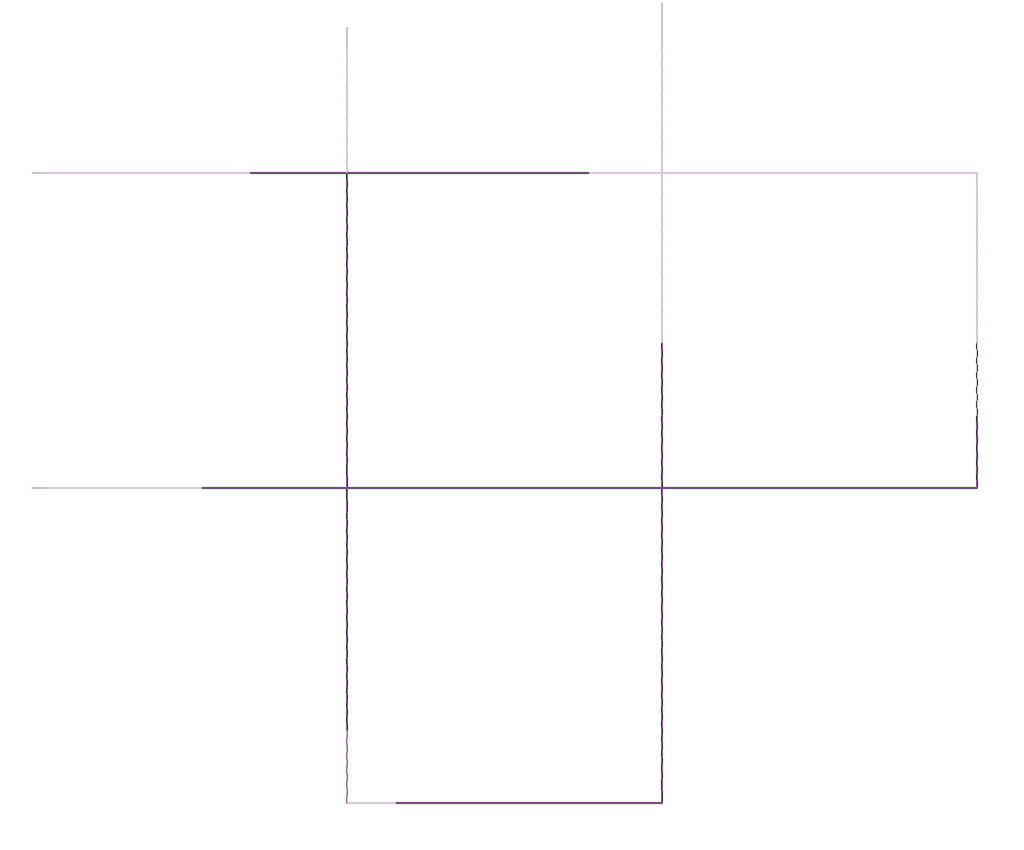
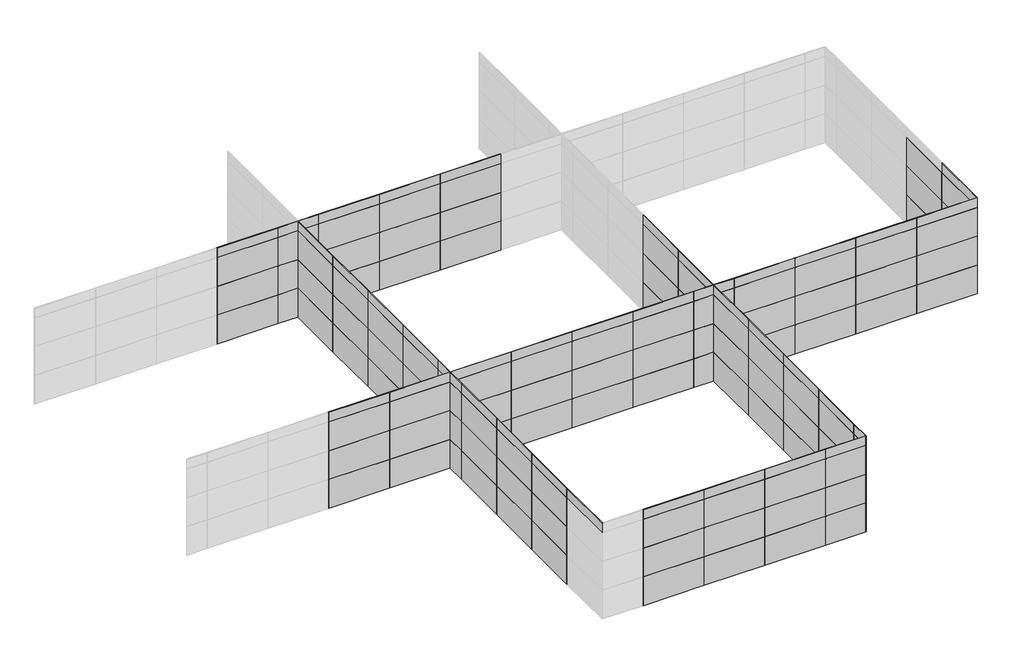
# One storey, part 2 of 4: 160 plates.
"""IFC4 building model written with IfcOpenShell, lengths in millimetres."""

from ifc_helpers import new_model, si_unit, origin, place, context, project, spatial, transform, mapped, element, save
from components import plate_b491c4e8, plate_da1865bf, plate_ce02e459, plate_7b5d22a9, plate_a38b8537, plate_752961ee

model = new_model("IFC4")

# Units and contexts
model_context = context("Model", 3, world=origin())
ifc_project = project(units=[si_unit("LENGTHUNIT", "METRE", prefix="MILLI")], contexts=[model_context])

# Site, building, storey
site = spatial("IfcSite", under=ifc_project)
building = spatial("IfcBuilding", under=site)
storey = spatial("IfcBuildingStorey", under=building, Name="标高 4", Elevation=15000.0)

# Plates
placement = place(None, origin())
plate_shape = plate_b491c4e8(model_context)
element("IfcPlate", 1, ObjectType="系统嵌板 : 玻璃", at=placement, inside=storey, context=model_context, shape_type="MappedRepresentation", body=[
    mapped(plate_shape, transform((30694.7947586, -9748.6313563, 15000.0), x_axis=(0.0, -1.0, 0.0), y_axis=(1.0, 0.0, 0.0), z_axis=(0.0, 0.0, 1.0))),
])
element("IfcPlate", 2, ObjectType="系统嵌板 : 玻璃", at=placement, inside=storey, context=model_context, shape_type="MappedRepresentation", body=[
    mapped(plate_shape, transform((30694.7947586, -12748.6313563, 15000.0), x_axis=(0.0, -1.0, 0.0), y_axis=(1.0, 0.0, 0.0), z_axis=(0.0, 0.0, 1.0))),
])
element("IfcPlate", 3, ObjectType="系统嵌板 : 玻璃", at=placement, inside=storey, context=model_context, shape_type="MappedRepresentation", body=[
    mapped(plate_shape, transform((30694.7947586, -9748.6313563, 16500.0), x_axis=(0.0, -1.0, 0.0), y_axis=(1.0, 0.0, 0.0), z_axis=(0.0, 0.0, 1.0))),
])
element("IfcPlate", 4, ObjectType="系统嵌板 : 玻璃", at=placement, inside=storey, context=model_context, shape_type="MappedRepresentation", body=[
    mapped(plate_shape, transform((30694.7947586, -12748.6313563, 16500.0), x_axis=(0.0, -1.0, 0.0), y_axis=(1.0, 0.0, 0.0), z_axis=(0.0, 0.0, 1.0))),
])
element("IfcPlate", 5, ObjectType="系统嵌板 : 玻璃", at=placement, inside=storey, context=model_context, shape_type="MappedRepresentation", body=[
    mapped(plate_shape, transform((30694.7947586, -9748.6313563, 18000.0), x_axis=(0.0, -1.0, 0.0), y_axis=(1.0, 0.0, 0.0), z_axis=(0.0, 0.0, 1.0))),
])
element("IfcPlate", 6, ObjectType="系统嵌板 : 玻璃", at=placement, inside=storey, context=model_context, shape_type="MappedRepresentation", body=[
    mapped(plate_shape, transform((30694.7947586, -12748.6313563, 18000.0), x_axis=(0.0, -1.0, 0.0), y_axis=(1.0, 0.0, 0.0), z_axis=(0.0, 0.0, 1.0))),
])
element("IfcPlate", 7, ObjectType="系统嵌板 : 玻璃", at=placement, inside=storey, context=model_context, shape_type="MappedRepresentation", body=[
    mapped(plate_shape, transform((14194.7947586, -27248.6313563, 15000.0), x_axis=(-1.0, 0.0, 0.0), y_axis=(0.0, -1.0, 0.0), z_axis=(0.0, 0.0, 1.0))),
])
element("IfcPlate", 8, ObjectType="系统嵌板 : 玻璃", at=placement, inside=storey, context=model_context, shape_type="MappedRepresentation", body=[
    mapped(plate_shape, transform((11194.7947586, -27248.6313563, 15000.0), x_axis=(-1.0, 0.0, 0.0), y_axis=(0.0, -1.0, 0.0), z_axis=(0.0, 0.0, 1.0))),
])
element("IfcPlate", 9, ObjectType="系统嵌板 : 玻璃", at=placement, inside=storey, context=model_context, shape_type="MappedRepresentation", body=[
    mapped(plate_shape, transform((8194.7947586, -27248.6313563, 15000.0), x_axis=(-1.0, 0.0, 0.0), y_axis=(0.0, -1.0, 0.0), z_axis=(0.0, 0.0, 1.0))),
])
element("IfcPlate", 10, ObjectType="系统嵌板 : 玻璃", at=placement, inside=storey, context=model_context, shape_type="MappedRepresentation", body=[
    mapped(plate_shape, transform((14194.7947586, -27248.6313563, 16500.0), x_axis=(-1.0, 0.0, 0.0), y_axis=(0.0, -1.0, 0.0), z_axis=(0.0, 0.0, 1.0))),
])
element("IfcPlate", 11, ObjectType="系统嵌板 : 玻璃", at=placement, inside=storey, context=model_context, shape_type="MappedRepresentation", body=[
    mapped(plate_shape, transform((11194.7947586, -27248.6313563, 16500.0), x_axis=(-1.0, 0.0, 0.0), y_axis=(0.0, -1.0, 0.0), z_axis=(0.0, 0.0, 1.0))),
])
element("IfcPlate", 12, ObjectType="系统嵌板 : 玻璃", at=placement, inside=storey, context=model_context, shape_type="MappedRepresentation", body=[
    mapped(plate_shape, transform((8194.7947586, -27248.6313563, 16500.0), x_axis=(-1.0, 0.0, 0.0), y_axis=(0.0, -1.0, 0.0), z_axis=(0.0, 0.0, 1.0))),
])
element("IfcPlate", 13, ObjectType="系统嵌板 : 玻璃", at=placement, inside=storey, context=model_context, shape_type="MappedRepresentation", body=[
    mapped(plate_shape, transform((14194.7947586, -27248.6313563, 18000.0), x_axis=(-1.0, 0.0, 0.0), y_axis=(0.0, -1.0, 0.0), z_axis=(0.0, 0.0, 1.0))),
])
element("IfcPlate", 14, ObjectType="系统嵌板 : 玻璃", at=placement, inside=storey, context=model_context, shape_type="MappedRepresentation", body=[
    mapped(plate_shape, transform((11194.7947586, -27248.6313563, 18000.0), x_axis=(-1.0, 0.0, 0.0), y_axis=(0.0, -1.0, 0.0), z_axis=(0.0, 0.0, 1.0))),
])
element("IfcPlate", 15, ObjectType="系统嵌板 : 玻璃", at=placement, inside=storey, context=model_context, shape_type="MappedRepresentation", body=[
    mapped(plate_shape, transform((8194.7947586, -27248.6313563, 18000.0), x_axis=(-1.0, 0.0, 0.0), y_axis=(0.0, -1.0, 0.0), z_axis=(0.0, 0.0, 1.0))),
])
element("IfcPlate", 16, ObjectType="系统嵌板 : 玻璃", at=placement, inside=storey, context=model_context, shape_type="MappedRepresentation", body=[
    mapped(plate_shape, transform((4694.7947586, -22748.6313563, 15000.0), x_axis=(0.0, 1.0, 0.0), y_axis=(-1.0, 0.0, 0.0), z_axis=(0.0, 0.0, 1.0))),
])
element("IfcPlate", 17, ObjectType="系统嵌板 : 玻璃", at=placement, inside=storey, context=model_context, shape_type="MappedRepresentation", body=[
    mapped(plate_shape, transform((4694.7947586, -19748.6313563, 15000.0), x_axis=(0.0, 1.0, 0.0), y_axis=(-1.0, 0.0, 0.0), z_axis=(0.0, 0.0, 1.0))),
])
element("IfcPlate", 18, ObjectType="系统嵌板 : 玻璃", at=placement, inside=storey, context=model_context, shape_type="MappedRepresentation", body=[
    mapped(plate_shape, transform((4694.7947586, -16748.6313563, 15000.0), x_axis=(0.0, 1.0, 0.0), y_axis=(-1.0, 0.0, 0.0), z_axis=(0.0, 0.0, 1.0))),
])
element("IfcPlate", 19, ObjectType="系统嵌板 : 玻璃", at=placement, inside=storey, context=model_context, shape_type="MappedRepresentation", body=[
    mapped(plate_shape, transform((4694.7947586, -22748.6313563, 16500.0), x_axis=(0.0, 1.0, 0.0), y_axis=(-1.0, 0.0, 0.0), z_axis=(0.0, 0.0, 1.0))),
])
element("IfcPlate", 20, ObjectType="系统嵌板 : 玻璃", at=placement, inside=storey, context=model_context, shape_type="MappedRepresentation", body=[
    mapped(plate_shape, transform((4694.7947586, -19748.6313563, 16500.0), x_axis=(0.0, 1.0, 0.0), y_axis=(-1.0, 0.0, 0.0), z_axis=(0.0, 0.0, 1.0))),
])
element("IfcPlate", 21, ObjectType="系统嵌板 : 玻璃", at=placement, inside=storey, context=model_context, shape_type="MappedRepresentation", body=[
    mapped(plate_shape, transform((4694.7947586, -16748.6313563, 16500.0), x_axis=(0.0, 1.0, 0.0), y_axis=(-1.0, 0.0, 0.0), z_axis=(0.0, 0.0, 1.0))),
])
element("IfcPlate", 22, ObjectType="系统嵌板 : 玻璃", at=placement, inside=storey, context=model_context, shape_type="MappedRepresentation", body=[
    mapped(plate_shape, transform((4694.7947586, -22748.6313563, 18000.0), x_axis=(0.0, 1.0, 0.0), y_axis=(-1.0, 0.0, 0.0), z_axis=(0.0, 0.0, 1.0))),
])
element("IfcPlate", 23, ObjectType="系统嵌板 : 玻璃", at=placement, inside=storey, context=model_context, shape_type="MappedRepresentation", body=[
    mapped(plate_shape, transform((4694.7947586, -19748.6313563, 18000.0), x_axis=(0.0, 1.0, 0.0), y_axis=(-1.0, 0.0, 0.0), z_axis=(0.0, 0.0, 1.0))),
])
element("IfcPlate", 24, ObjectType="系统嵌板 : 玻璃", at=placement, inside=storey, context=model_context, shape_type="MappedRepresentation", body=[
    mapped(plate_shape, transform((4694.7947586, -16748.6313563, 18000.0), x_axis=(0.0, 1.0, 0.0), y_axis=(-1.0, 0.0, 0.0), z_axis=(0.0, 0.0, 1.0))),
])
element("IfcPlate", 25, ObjectType="系统嵌板 : 玻璃", at=placement, inside=storey, context=model_context, shape_type="MappedRepresentation", body=[
    mapped(plate_shape, transform((3194.7947586, -14248.6313563, 15000.0), x_axis=(-1.0, 0.0, 0.0), y_axis=(0.0, -1.0, 0.0), z_axis=(0.0, 0.0, 1.0))),
])
element("IfcPlate", 26, ObjectType="系统嵌板 : 玻璃", at=placement, inside=storey, context=model_context, shape_type="MappedRepresentation", body=[
    mapped(plate_shape, transform((194.7947586, -14248.6313563, 15000.0), x_axis=(-1.0, 0.0, 0.0), y_axis=(0.0, -1.0, 0.0), z_axis=(0.0, 0.0, 1.0))),
])
element("IfcPlate", 27, ObjectType="系统嵌板 : 玻璃", at=placement, inside=storey, context=model_context, shape_type="MappedRepresentation", body=[
    mapped(plate_shape, transform((3194.7947586, -14248.6313563, 16500.0), x_axis=(-1.0, 0.0, 0.0), y_axis=(0.0, -1.0, 0.0), z_axis=(0.0, 0.0, 1.0))),
])
element("IfcPlate", 28, ObjectType="系统嵌板 : 玻璃", at=placement, inside=storey, context=model_context, shape_type="MappedRepresentation", body=[
    mapped(plate_shape, transform((194.7947586, -14248.6313563, 16500.0), x_axis=(-1.0, 0.0, 0.0), y_axis=(0.0, -1.0, 0.0), z_axis=(0.0, 0.0, 1.0))),
])
element("IfcPlate", 29, ObjectType="系统嵌板 : 玻璃", at=placement, inside=storey, context=model_context, shape_type="MappedRepresentation", body=[
    mapped(plate_shape, transform((3194.7947586, -14248.6313563, 18000.0), x_axis=(-1.0, 0.0, 0.0), y_axis=(0.0, -1.0, 0.0), z_axis=(0.0, 0.0, 1.0))),
])
element("IfcPlate", 30, ObjectType="系统嵌板 : 玻璃", at=placement, inside=storey, context=model_context, shape_type="MappedRepresentation", body=[
    mapped(plate_shape, transform((194.7947586, -14248.6313563, 18000.0), x_axis=(-1.0, 0.0, 0.0), y_axis=(0.0, -1.0, 0.0), z_axis=(0.0, 0.0, 1.0))),
])
element("IfcPlate", 31, ObjectType="系统嵌板 : 玻璃", at=placement, inside=storey, context=model_context, shape_type="MappedRepresentation", body=[
    mapped(plate_shape, transform((2194.7947586, -1248.6313563, 15000.0), x_axis=(1.0, 0.0, 0.0), y_axis=(0.0, 1.0, 0.0), z_axis=(0.0, 0.0, 1.0))),
])
element("IfcPlate", 32, ObjectType="系统嵌板 : 玻璃", at=placement, inside=storey, context=model_context, shape_type="MappedRepresentation", body=[
    mapped(plate_shape, transform((2194.7947586, -1248.6313563, 16500.0), x_axis=(1.0, 0.0, 0.0), y_axis=(0.0, 1.0, 0.0), z_axis=(0.0, 0.0, 1.0))),
])
element("IfcPlate", 33, ObjectType="系统嵌板 : 玻璃", at=placement, inside=storey, context=model_context, shape_type="MappedRepresentation", body=[
    mapped(plate_shape, transform((2194.7947586, -1248.6313563, 18000.0), x_axis=(1.0, 0.0, 0.0), y_axis=(0.0, 1.0, 0.0), z_axis=(0.0, 0.0, 1.0))),
])
element("IfcPlate", 34, ObjectType="系统嵌板 : 玻璃", at=placement, inside=storey, context=model_context, shape_type="MappedRepresentation", body=[
    mapped(plate_shape, transform((17694.7947586, -12748.6313563, 15000.0), x_axis=(0.0, 1.0, 0.0), y_axis=(-1.0, 0.0, 0.0), z_axis=(0.0, 0.0, 1.0))),
])
element("IfcPlate", 35, ObjectType="系统嵌板 : 玻璃", at=placement, inside=storey, context=model_context, shape_type="MappedRepresentation", body=[
    mapped(plate_shape, transform((17694.7947586, -9748.6313563, 15000.0), x_axis=(0.0, 1.0, 0.0), y_axis=(-1.0, 0.0, 0.0), z_axis=(0.0, 0.0, 1.0))),
])
element("IfcPlate", 36, ObjectType="系统嵌板 : 玻璃", at=placement, inside=storey, context=model_context, shape_type="MappedRepresentation", body=[
    mapped(plate_shape, transform((17694.7947586, -12748.6313563, 16500.0), x_axis=(0.0, 1.0, 0.0), y_axis=(-1.0, 0.0, 0.0), z_axis=(0.0, 0.0, 1.0))),
])
element("IfcPlate", 37, ObjectType="系统嵌板 : 玻璃", at=placement, inside=storey, context=model_context, shape_type="MappedRepresentation", body=[
    mapped(plate_shape, transform((17694.7947586, -9748.6313563, 16500.0), x_axis=(0.0, 1.0, 0.0), y_axis=(-1.0, 0.0, 0.0), z_axis=(0.0, 0.0, 1.0))),
])
element("IfcPlate", 38, ObjectType="系统嵌板 : 玻璃", at=placement, inside=storey, context=model_context, shape_type="MappedRepresentation", body=[
    mapped(plate_shape, transform((17694.7947586, -12748.6313563, 18000.0), x_axis=(0.0, 1.0, 0.0), y_axis=(-1.0, 0.0, 0.0), z_axis=(0.0, 0.0, 1.0))),
])
element("IfcPlate", 39, ObjectType="系统嵌板 : 玻璃", at=placement, inside=storey, context=model_context, shape_type="MappedRepresentation", body=[
    mapped(plate_shape, transform((17694.7947586, -9748.6313563, 18000.0), x_axis=(0.0, 1.0, 0.0), y_axis=(-1.0, 0.0, 0.0), z_axis=(0.0, 0.0, 1.0))),
])
element("IfcPlate", 40, ObjectType="系统嵌板 : 玻璃", at=placement, inside=storey, context=model_context, shape_type="MappedRepresentation", body=[
    mapped(plate_shape, transform((6194.7947586, -14248.6313563, 15000.0), x_axis=(1.0, 0.0, 0.0), y_axis=(0.0, 1.0, 0.0), z_axis=(0.0, 0.0, 1.0))),
])
element("IfcPlate", 41, ObjectType="系统嵌板 : 玻璃", at=placement, inside=storey, context=model_context, shape_type="MappedRepresentation", body=[
    mapped(plate_shape, transform((9194.7947586, -14248.6313563, 15000.0), x_axis=(1.0, 0.0, 0.0), y_axis=(0.0, 1.0, 0.0), z_axis=(0.0, 0.0, 1.0))),
])
element("IfcPlate", 42, ObjectType="系统嵌板 : 玻璃", at=placement, inside=storey, context=model_context, shape_type="MappedRepresentation", body=[
    mapped(plate_shape, transform((12194.7947586, -14248.6313563, 15000.0), x_axis=(1.0, 0.0, 0.0), y_axis=(0.0, 1.0, 0.0), z_axis=(0.0, 0.0, 1.0))),
])
element("IfcPlate", 43, ObjectType="系统嵌板 : 玻璃", at=placement, inside=storey, context=model_context, shape_type="MappedRepresentation", body=[
    mapped(plate_shape, transform((15194.7947586, -14248.6313563, 15000.0), x_axis=(1.0, 0.0, 0.0), y_axis=(0.0, 1.0, 0.0), z_axis=(0.0, 0.0, 1.0))),
])
element("IfcPlate", 44, ObjectType="系统嵌板 : 玻璃", at=placement, inside=storey, context=model_context, shape_type="MappedRepresentation", body=[
    mapped(plate_shape, transform((6194.7947586, -14248.6313563, 16500.0), x_axis=(1.0, 0.0, 0.0), y_axis=(0.0, 1.0, 0.0), z_axis=(0.0, 0.0, 1.0))),
])
element("IfcPlate", 45, ObjectType="系统嵌板 : 玻璃", at=placement, inside=storey, context=model_context, shape_type="MappedRepresentation", body=[
    mapped(plate_shape, transform((9194.7947586, -14248.6313563, 16500.0), x_axis=(1.0, 0.0, 0.0), y_axis=(0.0, 1.0, 0.0), z_axis=(0.0, 0.0, 1.0))),
])
element("IfcPlate", 46, ObjectType="系统嵌板 : 玻璃", at=placement, inside=storey, context=model_context, shape_type="MappedRepresentation", body=[
    mapped(plate_shape, transform((12194.7947586, -14248.6313563, 16500.0), x_axis=(1.0, 0.0, 0.0), y_axis=(0.0, 1.0, 0.0), z_axis=(0.0, 0.0, 1.0))),
])
element("IfcPlate", 47, ObjectType="系统嵌板 : 玻璃", at=placement, inside=storey, context=model_context, shape_type="MappedRepresentation", body=[
    mapped(plate_shape, transform((15194.7947586, -14248.6313563, 16500.0), x_axis=(1.0, 0.0, 0.0), y_axis=(0.0, 1.0, 0.0), z_axis=(0.0, 0.0, 1.0))),
])
element("IfcPlate", 48, ObjectType="系统嵌板 : 玻璃", at=placement, inside=storey, context=model_context, shape_type="MappedRepresentation", body=[
    mapped(plate_shape, transform((6194.7947586, -14248.6313563, 18000.0), x_axis=(1.0, 0.0, 0.0), y_axis=(0.0, 1.0, 0.0), z_axis=(0.0, 0.0, 1.0))),
])
element("IfcPlate", 49, ObjectType="系统嵌板 : 玻璃", at=placement, inside=storey, context=model_context, shape_type="MappedRepresentation", body=[
    mapped(plate_shape, transform((9194.7947586, -14248.6313563, 18000.0), x_axis=(1.0, 0.0, 0.0), y_axis=(0.0, 1.0, 0.0), z_axis=(0.0, 0.0, 1.0))),
])
element("IfcPlate", 50, ObjectType="系统嵌板 : 玻璃", at=placement, inside=storey, context=model_context, shape_type="MappedRepresentation", body=[
    mapped(plate_shape, transform((12194.7947586, -14248.6313563, 18000.0), x_axis=(1.0, 0.0, 0.0), y_axis=(0.0, 1.0, 0.0), z_axis=(0.0, 0.0, 1.0))),
])
element("IfcPlate", 51, ObjectType="系统嵌板 : 玻璃", at=placement, inside=storey, context=model_context, shape_type="MappedRepresentation", body=[
    mapped(plate_shape, transform((15194.7947586, -14248.6313563, 18000.0), x_axis=(1.0, 0.0, 0.0), y_axis=(0.0, 1.0, 0.0), z_axis=(0.0, 0.0, 1.0))),
])
element("IfcPlate", 52, ObjectType="系统嵌板 : 玻璃", at=placement, inside=storey, context=model_context, shape_type="MappedRepresentation", body=[
    mapped(plate_shape, transform((13194.7947586, -1248.6313563, 15000.0), x_axis=(-1.0, 0.0, 0.0), y_axis=(0.0, -1.0, 0.0), z_axis=(0.0, 0.0, 1.0))),
])
element("IfcPlate", 53, ObjectType="系统嵌板 : 玻璃", at=placement, inside=storey, context=model_context, shape_type="MappedRepresentation", body=[
    mapped(plate_shape, transform((10194.7947586, -1248.6313563, 15000.0), x_axis=(-1.0, 0.0, 0.0), y_axis=(0.0, -1.0, 0.0), z_axis=(0.0, 0.0, 1.0))),
])
element("IfcPlate", 54, ObjectType="系统嵌板 : 玻璃", at=placement, inside=storey, context=model_context, shape_type="MappedRepresentation", body=[
    mapped(plate_shape, transform((7194.7947586, -1248.6313563, 15000.0), x_axis=(-1.0, 0.0, 0.0), y_axis=(0.0, -1.0, 0.0), z_axis=(0.0, 0.0, 1.0))),
])
element("IfcPlate", 55, ObjectType="系统嵌板 : 玻璃", at=placement, inside=storey, context=model_context, shape_type="MappedRepresentation", body=[
    mapped(plate_shape, transform((13194.7947586, -1248.6313563, 16500.0), x_axis=(-1.0, 0.0, 0.0), y_axis=(0.0, -1.0, 0.0), z_axis=(0.0, 0.0, 1.0))),
])
element("IfcPlate", 56, ObjectType="系统嵌板 : 玻璃", at=placement, inside=storey, context=model_context, shape_type="MappedRepresentation", body=[
    mapped(plate_shape, transform((10194.7947586, -1248.6313563, 16500.0), x_axis=(-1.0, 0.0, 0.0), y_axis=(0.0, -1.0, 0.0), z_axis=(0.0, 0.0, 1.0))),
])
element("IfcPlate", 57, ObjectType="系统嵌板 : 玻璃", at=placement, inside=storey, context=model_context, shape_type="MappedRepresentation", body=[
    mapped(plate_shape, transform((7194.7947586, -1248.6313563, 16500.0), x_axis=(-1.0, 0.0, 0.0), y_axis=(0.0, -1.0, 0.0), z_axis=(0.0, 0.0, 1.0))),
])
element("IfcPlate", 58, ObjectType="系统嵌板 : 玻璃", at=placement, inside=storey, context=model_context, shape_type="MappedRepresentation", body=[
    mapped(plate_shape, transform((13194.7947586, -1248.6313563, 18000.0), x_axis=(-1.0, 0.0, 0.0), y_axis=(0.0, -1.0, 0.0), z_axis=(0.0, 0.0, 1.0))),
])
element("IfcPlate", 59, ObjectType="系统嵌板 : 玻璃", at=placement, inside=storey, context=model_context, shape_type="MappedRepresentation", body=[
    mapped(plate_shape, transform((10194.7947586, -1248.6313563, 18000.0), x_axis=(-1.0, 0.0, 0.0), y_axis=(0.0, -1.0, 0.0), z_axis=(0.0, 0.0, 1.0))),
])
element("IfcPlate", 60, ObjectType="系统嵌板 : 玻璃", at=placement, inside=storey, context=model_context, shape_type="MappedRepresentation", body=[
    mapped(plate_shape, transform((7194.7947586, -1248.6313563, 18000.0), x_axis=(-1.0, 0.0, 0.0), y_axis=(0.0, -1.0, 0.0), z_axis=(0.0, 0.0, 1.0))),
])
element("IfcPlate", 61, ObjectType="系统嵌板 : 玻璃", at=placement, inside=storey, context=model_context, shape_type="MappedRepresentation", body=[
    mapped(plate_shape, transform((4694.7947586, -2748.6313563, 15000.0), x_axis=(0.0, -1.0, 0.0), y_axis=(1.0, 0.0, 0.0), z_axis=(0.0, 0.0, 1.0))),
])
element("IfcPlate", 62, ObjectType="系统嵌板 : 玻璃", at=placement, inside=storey, context=model_context, shape_type="MappedRepresentation", body=[
    mapped(plate_shape, transform((4694.7947586, -5748.6313563, 15000.0), x_axis=(0.0, -1.0, 0.0), y_axis=(1.0, 0.0, 0.0), z_axis=(0.0, 0.0, 1.0))),
])
element("IfcPlate", 63, ObjectType="系统嵌板 : 玻璃", at=placement, inside=storey, context=model_context, shape_type="MappedRepresentation", body=[
    mapped(plate_shape, transform((4694.7947586, -8748.6313563, 15000.0), x_axis=(0.0, -1.0, 0.0), y_axis=(1.0, 0.0, 0.0), z_axis=(0.0, 0.0, 1.0))),
])
element("IfcPlate", 64, ObjectType="系统嵌板 : 玻璃", at=placement, inside=storey, context=model_context, shape_type="MappedRepresentation", body=[
    mapped(plate_shape, transform((4694.7947586, -11748.6313563, 15000.0), x_axis=(0.0, -1.0, 0.0), y_axis=(1.0, 0.0, 0.0), z_axis=(0.0, 0.0, 1.0))),
])
element("IfcPlate", 65, ObjectType="系统嵌板 : 玻璃", at=placement, inside=storey, context=model_context, shape_type="MappedRepresentation", body=[
    mapped(plate_shape, transform((4694.7947586, -2748.6313563, 16500.0), x_axis=(0.0, -1.0, 0.0), y_axis=(1.0, 0.0, 0.0), z_axis=(0.0, 0.0, 1.0))),
])
element("IfcPlate", 66, ObjectType="系统嵌板 : 玻璃", at=placement, inside=storey, context=model_context, shape_type="MappedRepresentation", body=[
    mapped(plate_shape, transform((4694.7947586, -5748.6313563, 16500.0), x_axis=(0.0, -1.0, 0.0), y_axis=(1.0, 0.0, 0.0), z_axis=(0.0, 0.0, 1.0))),
])
element("IfcPlate", 67, ObjectType="系统嵌板 : 玻璃", at=placement, inside=storey, context=model_context, shape_type="MappedRepresentation", body=[
    mapped(plate_shape, transform((4694.7947586, -8748.6313563, 16500.0), x_axis=(0.0, -1.0, 0.0), y_axis=(1.0, 0.0, 0.0), z_axis=(0.0, 0.0, 1.0))),
])
element("IfcPlate", 68, ObjectType="系统嵌板 : 玻璃", at=placement, inside=storey, context=model_context, shape_type="MappedRepresentation", body=[
    mapped(plate_shape, transform((4694.7947586, -11748.6313563, 16500.0), x_axis=(0.0, -1.0, 0.0), y_axis=(1.0, 0.0, 0.0), z_axis=(0.0, 0.0, 1.0))),
])
element("IfcPlate", 69, ObjectType="系统嵌板 : 玻璃", at=placement, inside=storey, context=model_context, shape_type="MappedRepresentation", body=[
    mapped(plate_shape, transform((4694.7947586, -2748.6313563, 18000.0), x_axis=(0.0, -1.0, 0.0), y_axis=(1.0, 0.0, 0.0), z_axis=(0.0, 0.0, 1.0))),
])
element("IfcPlate", 70, ObjectType="系统嵌板 : 玻璃", at=placement, inside=storey, context=model_context, shape_type="MappedRepresentation", body=[
    mapped(plate_shape, transform((4694.7947586, -5748.6313563, 18000.0), x_axis=(0.0, -1.0, 0.0), y_axis=(1.0, 0.0, 0.0), z_axis=(0.0, 0.0, 1.0))),
])
element("IfcPlate", 71, ObjectType="系统嵌板 : 玻璃", at=placement, inside=storey, context=model_context, shape_type="MappedRepresentation", body=[
    mapped(plate_shape, transform((4694.7947586, -8748.6313563, 18000.0), x_axis=(0.0, -1.0, 0.0), y_axis=(1.0, 0.0, 0.0), z_axis=(0.0, 0.0, 1.0))),
])
element("IfcPlate", 72, ObjectType="系统嵌板 : 玻璃", at=placement, inside=storey, context=model_context, shape_type="MappedRepresentation", body=[
    mapped(plate_shape, transform((4694.7947586, -11748.6313563, 18000.0), x_axis=(0.0, -1.0, 0.0), y_axis=(1.0, 0.0, 0.0), z_axis=(0.0, 0.0, 1.0))),
])
element("IfcPlate", 73, ObjectType="系统嵌板 : 玻璃", at=placement, inside=storey, context=model_context, shape_type="MappedRepresentation", body=[
    mapped(plate_shape, transform((29194.7947586, -14248.6313563, 15000.0), x_axis=(-1.0, 0.0, 0.0), y_axis=(0.0, -1.0, 0.0), z_axis=(0.0, 0.0, 1.0))),
])
element("IfcPlate", 74, ObjectType="系统嵌板 : 玻璃", at=placement, inside=storey, context=model_context, shape_type="MappedRepresentation", body=[
    mapped(plate_shape, transform((26194.7947586, -14248.6313563, 15000.0), x_axis=(-1.0, 0.0, 0.0), y_axis=(0.0, -1.0, 0.0), z_axis=(0.0, 0.0, 1.0))),
])
element("IfcPlate", 75, ObjectType="系统嵌板 : 玻璃", at=placement, inside=storey, context=model_context, shape_type="MappedRepresentation", body=[
    mapped(plate_shape, transform((23194.7947586, -14248.6313563, 15000.0), x_axis=(-1.0, 0.0, 0.0), y_axis=(0.0, -1.0, 0.0), z_axis=(0.0, 0.0, 1.0))),
])
element("IfcPlate", 76, ObjectType="系统嵌板 : 玻璃", at=placement, inside=storey, context=model_context, shape_type="MappedRepresentation", body=[
    mapped(plate_shape, transform((20194.7947586, -14248.6313563, 15000.0), x_axis=(-1.0, 0.0, 0.0), y_axis=(0.0, -1.0, 0.0), z_axis=(0.0, 0.0, 1.0))),
])
element("IfcPlate", 77, ObjectType="系统嵌板 : 玻璃", at=placement, inside=storey, context=model_context, shape_type="MappedRepresentation", body=[
    mapped(plate_shape, transform((29194.7947586, -14248.6313563, 16500.0), x_axis=(-1.0, 0.0, 0.0), y_axis=(0.0, -1.0, 0.0), z_axis=(0.0, 0.0, 1.0))),
])
element("IfcPlate", 78, ObjectType="系统嵌板 : 玻璃", at=placement, inside=storey, context=model_context, shape_type="MappedRepresentation", body=[
    mapped(plate_shape, transform((26194.7947586, -14248.6313563, 16500.0), x_axis=(-1.0, 0.0, 0.0), y_axis=(0.0, -1.0, 0.0), z_axis=(0.0, 0.0, 1.0))),
])
element("IfcPlate", 79, ObjectType="系统嵌板 : 玻璃", at=placement, inside=storey, context=model_context, shape_type="MappedRepresentation", body=[
    mapped(plate_shape, transform((23194.7947586, -14248.6313563, 16500.0), x_axis=(-1.0, 0.0, 0.0), y_axis=(0.0, -1.0, 0.0), z_axis=(0.0, 0.0, 1.0))),
])
element("IfcPlate", 80, ObjectType="系统嵌板 : 玻璃", at=placement, inside=storey, context=model_context, shape_type="MappedRepresentation", body=[
    mapped(plate_shape, transform((20194.7947586, -14248.6313563, 16500.0), x_axis=(-1.0, 0.0, 0.0), y_axis=(0.0, -1.0, 0.0), z_axis=(0.0, 0.0, 1.0))),
])
element("IfcPlate", 81, ObjectType="系统嵌板 : 玻璃", at=placement, inside=storey, context=model_context, shape_type="MappedRepresentation", body=[
    mapped(plate_shape, transform((29194.7947586, -14248.6313563, 18000.0), x_axis=(-1.0, 0.0, 0.0), y_axis=(0.0, -1.0, 0.0), z_axis=(0.0, 0.0, 1.0))),
])
element("IfcPlate", 82, ObjectType="系统嵌板 : 玻璃", at=placement, inside=storey, context=model_context, shape_type="MappedRepresentation", body=[
    mapped(plate_shape, transform((26194.7947586, -14248.6313563, 18000.0), x_axis=(-1.0, 0.0, 0.0), y_axis=(0.0, -1.0, 0.0), z_axis=(0.0, 0.0, 1.0))),
])
element("IfcPlate", 83, ObjectType="系统嵌板 : 玻璃", at=placement, inside=storey, context=model_context, shape_type="MappedRepresentation", body=[
    mapped(plate_shape, transform((23194.7947586, -14248.6313563, 18000.0), x_axis=(-1.0, 0.0, 0.0), y_axis=(0.0, -1.0, 0.0), z_axis=(0.0, 0.0, 1.0))),
])
element("IfcPlate", 84, ObjectType="系统嵌板 : 玻璃", at=placement, inside=storey, context=model_context, shape_type="MappedRepresentation", body=[
    mapped(plate_shape, transform((20194.7947586, -14248.6313563, 18000.0), x_axis=(-1.0, 0.0, 0.0), y_axis=(0.0, -1.0, 0.0), z_axis=(0.0, 0.0, 1.0))),
])
element("IfcPlate", 85, ObjectType="系统嵌板 : 玻璃", at=placement, inside=storey, context=model_context, shape_type="MappedRepresentation", body=[
    mapped(plate_shape, transform((17694.7947586, -15748.6313563, 15000.0), x_axis=(0.0, -1.0, 0.0), y_axis=(1.0, 0.0, 0.0), z_axis=(0.0, 0.0, 1.0))),
])
element("IfcPlate", 86, ObjectType="系统嵌板 : 玻璃", at=placement, inside=storey, context=model_context, shape_type="MappedRepresentation", body=[
    mapped(plate_shape, transform((17694.7947586, -18748.6313563, 15000.0), x_axis=(0.0, -1.0, 0.0), y_axis=(1.0, 0.0, 0.0), z_axis=(0.0, 0.0, 1.0))),
])
element("IfcPlate", 87, ObjectType="系统嵌板 : 玻璃", at=placement, inside=storey, context=model_context, shape_type="MappedRepresentation", body=[
    mapped(plate_shape, transform((17694.7947586, -21748.6313563, 15000.0), x_axis=(0.0, -1.0, 0.0), y_axis=(1.0, 0.0, 0.0), z_axis=(0.0, 0.0, 1.0))),
])
element("IfcPlate", 88, ObjectType="系统嵌板 : 玻璃", at=placement, inside=storey, context=model_context, shape_type="MappedRepresentation", body=[
    mapped(plate_shape, transform((17694.7947586, -24748.6313563, 15000.0), x_axis=(0.0, -1.0, 0.0), y_axis=(1.0, 0.0, 0.0), z_axis=(0.0, 0.0, 1.0))),
])
element("IfcPlate", 89, ObjectType="系统嵌板 : 玻璃", at=placement, inside=storey, context=model_context, shape_type="MappedRepresentation", body=[
    mapped(plate_shape, transform((17694.7947586, -15748.6313563, 16500.0), x_axis=(0.0, -1.0, 0.0), y_axis=(1.0, 0.0, 0.0), z_axis=(0.0, 0.0, 1.0))),
])
element("IfcPlate", 90, ObjectType="系统嵌板 : 玻璃", at=placement, inside=storey, context=model_context, shape_type="MappedRepresentation", body=[
    mapped(plate_shape, transform((17694.7947586, -18748.6313563, 16500.0), x_axis=(0.0, -1.0, 0.0), y_axis=(1.0, 0.0, 0.0), z_axis=(0.0, 0.0, 1.0))),
])
element("IfcPlate", 91, ObjectType="系统嵌板 : 玻璃", at=placement, inside=storey, context=model_context, shape_type="MappedRepresentation", body=[
    mapped(plate_shape, transform((17694.7947586, -21748.6313563, 16500.0), x_axis=(0.0, -1.0, 0.0), y_axis=(1.0, 0.0, 0.0), z_axis=(0.0, 0.0, 1.0))),
])
element("IfcPlate", 92, ObjectType="系统嵌板 : 玻璃", at=placement, inside=storey, context=model_context, shape_type="MappedRepresentation", body=[
    mapped(plate_shape, transform((17694.7947586, -24748.6313563, 16500.0), x_axis=(0.0, -1.0, 0.0), y_axis=(1.0, 0.0, 0.0), z_axis=(0.0, 0.0, 1.0))),
])
element("IfcPlate", 93, ObjectType="系统嵌板 : 玻璃", at=placement, inside=storey, context=model_context, shape_type="MappedRepresentation", body=[
    mapped(plate_shape, transform((17694.7947586, -15748.6313563, 18000.0), x_axis=(0.0, -1.0, 0.0), y_axis=(1.0, 0.0, 0.0), z_axis=(0.0, 0.0, 1.0))),
])
element("IfcPlate", 94, ObjectType="系统嵌板 : 玻璃", at=placement, inside=storey, context=model_context, shape_type="MappedRepresentation", body=[
    mapped(plate_shape, transform((17694.7947586, -18748.6313563, 18000.0), x_axis=(0.0, -1.0, 0.0), y_axis=(1.0, 0.0, 0.0), z_axis=(0.0, 0.0, 1.0))),
])
element("IfcPlate", 95, ObjectType="系统嵌板 : 玻璃", at=placement, inside=storey, context=model_context, shape_type="MappedRepresentation", body=[
    mapped(plate_shape, transform((17694.7947586, -21748.6313563, 18000.0), x_axis=(0.0, -1.0, 0.0), y_axis=(1.0, 0.0, 0.0), z_axis=(0.0, 0.0, 1.0))),
])
element("IfcPlate", 96, ObjectType="系统嵌板 : 玻璃", at=placement, inside=storey, context=model_context, shape_type="MappedRepresentation", body=[
    mapped(plate_shape, transform((17694.7947586, -24748.6313563, 18000.0), x_axis=(0.0, -1.0, 0.0), y_axis=(1.0, 0.0, 0.0), z_axis=(0.0, 0.0, 1.0))),
])
plate_2_shape = plate_da1865bf(model_context)
element("IfcPlate", 97, ObjectType="系统嵌板 : 玻璃", at=placement, inside=storey, context=model_context, shape_type="MappedRepresentation", body=[
    mapped(plate_2_shape, transform((4694.7947586, -14748.6313563, 15000.0), x_axis=(0.0, 1.0, 0.0), y_axis=(-1.0, 0.0, 0.0), z_axis=(0.0, 0.0, 1.0))),
])
element("IfcPlate", 98, ObjectType="系统嵌板 : 玻璃", at=placement, inside=storey, context=model_context, shape_type="MappedRepresentation", body=[
    mapped(plate_2_shape, transform((4694.7947586, -14748.6313563, 16500.0), x_axis=(0.0, 1.0, 0.0), y_axis=(-1.0, 0.0, 0.0), z_axis=(0.0, 0.0, 1.0))),
])
element("IfcPlate", 99, ObjectType="系统嵌板 : 玻璃", at=placement, inside=storey, context=model_context, shape_type="MappedRepresentation", body=[
    mapped(plate_2_shape, transform((4694.7947586, -14748.6313563, 18000.0), x_axis=(0.0, 1.0, 0.0), y_axis=(-1.0, 0.0, 0.0), z_axis=(0.0, 0.0, 1.0))),
])
element("IfcPlate", 100, ObjectType="系统嵌板 : 玻璃", at=placement, inside=storey, context=model_context, shape_type="MappedRepresentation", body=[
    mapped(plate_2_shape, transform((4194.7947586, -1248.6313563, 15000.0), x_axis=(1.0, 0.0, 0.0), y_axis=(0.0, 1.0, 0.0), z_axis=(0.0, 0.0, 1.0))),
])
element("IfcPlate", 101, ObjectType="系统嵌板 : 玻璃", at=placement, inside=storey, context=model_context, shape_type="MappedRepresentation", body=[
    mapped(plate_2_shape, transform((4194.7947586, -1248.6313563, 16500.0), x_axis=(1.0, 0.0, 0.0), y_axis=(0.0, 1.0, 0.0), z_axis=(0.0, 0.0, 1.0))),
])
element("IfcPlate", 102, ObjectType="系统嵌板 : 玻璃", at=placement, inside=storey, context=model_context, shape_type="MappedRepresentation", body=[
    mapped(plate_2_shape, transform((4194.7947586, -1248.6313563, 18000.0), x_axis=(1.0, 0.0, 0.0), y_axis=(0.0, 1.0, 0.0), z_axis=(0.0, 0.0, 1.0))),
])
element("IfcPlate", 103, ObjectType="系统嵌板 : 玻璃", at=placement, inside=storey, context=model_context, shape_type="MappedRepresentation", body=[
    mapped(plate_2_shape, transform((17194.7947586, -14248.6313563, 15000.0), x_axis=(1.0, 0.0, 0.0), y_axis=(0.0, 1.0, 0.0), z_axis=(0.0, 0.0, 1.0))),
])
element("IfcPlate", 104, ObjectType="系统嵌板 : 玻璃", at=placement, inside=storey, context=model_context, shape_type="MappedRepresentation", body=[
    mapped(plate_2_shape, transform((17194.7947586, -14248.6313563, 16500.0), x_axis=(1.0, 0.0, 0.0), y_axis=(0.0, 1.0, 0.0), z_axis=(0.0, 0.0, 1.0))),
])
element("IfcPlate", 105, ObjectType="系统嵌板 : 玻璃", at=placement, inside=storey, context=model_context, shape_type="MappedRepresentation", body=[
    mapped(plate_2_shape, transform((17194.7947586, -14248.6313563, 18000.0), x_axis=(1.0, 0.0, 0.0), y_axis=(0.0, 1.0, 0.0), z_axis=(0.0, 0.0, 1.0))),
])
element("IfcPlate", 106, ObjectType="系统嵌板 : 玻璃", at=placement, inside=storey, context=model_context, shape_type="MappedRepresentation", body=[
    mapped(plate_2_shape, transform((5194.7947586, -1248.6313563, 15000.0), x_axis=(-1.0, 0.0, 0.0), y_axis=(0.0, -1.0, 0.0), z_axis=(0.0, 0.0, 1.0))),
])
element("IfcPlate", 107, ObjectType="系统嵌板 : 玻璃", at=placement, inside=storey, context=model_context, shape_type="MappedRepresentation", body=[
    mapped(plate_2_shape, transform((5194.7947586, -1248.6313563, 16500.0), x_axis=(-1.0, 0.0, 0.0), y_axis=(0.0, -1.0, 0.0), z_axis=(0.0, 0.0, 1.0))),
])
element("IfcPlate", 108, ObjectType="系统嵌板 : 玻璃", at=placement, inside=storey, context=model_context, shape_type="MappedRepresentation", body=[
    mapped(plate_2_shape, transform((5194.7947586, -1248.6313563, 18000.0), x_axis=(-1.0, 0.0, 0.0), y_axis=(0.0, -1.0, 0.0), z_axis=(0.0, 0.0, 1.0))),
])
element("IfcPlate", 109, ObjectType="系统嵌板 : 玻璃", at=placement, inside=storey, context=model_context, shape_type="MappedRepresentation", body=[
    mapped(plate_2_shape, transform((4694.7947586, -13748.6313563, 15000.0), x_axis=(0.0, -1.0, 0.0), y_axis=(1.0, 0.0, 0.0), z_axis=(0.0, 0.0, 1.0))),
])
element("IfcPlate", 110, ObjectType="系统嵌板 : 玻璃", at=placement, inside=storey, context=model_context, shape_type="MappedRepresentation", body=[
    mapped(plate_2_shape, transform((4694.7947586, -13748.6313563, 16500.0), x_axis=(0.0, -1.0, 0.0), y_axis=(1.0, 0.0, 0.0), z_axis=(0.0, 0.0, 1.0))),
])
element("IfcPlate", 111, ObjectType="系统嵌板 : 玻璃", at=placement, inside=storey, context=model_context, shape_type="MappedRepresentation", body=[
    mapped(plate_2_shape, transform((4694.7947586, -13748.6313563, 18000.0), x_axis=(0.0, -1.0, 0.0), y_axis=(1.0, 0.0, 0.0), z_axis=(0.0, 0.0, 1.0))),
])
element("IfcPlate", 112, ObjectType="系统嵌板 : 玻璃", at=placement, inside=storey, context=model_context, shape_type="MappedRepresentation", body=[
    mapped(plate_2_shape, transform((18194.7947586, -14248.6313563, 15000.0), x_axis=(-1.0, 0.0, 0.0), y_axis=(0.0, -1.0, 0.0), z_axis=(0.0, 0.0, 1.0))),
])
element("IfcPlate", 113, ObjectType="系统嵌板 : 玻璃", at=placement, inside=storey, context=model_context, shape_type="MappedRepresentation", body=[
    mapped(plate_2_shape, transform((18194.7947586, -14248.6313563, 16500.0), x_axis=(-1.0, 0.0, 0.0), y_axis=(0.0, -1.0, 0.0), z_axis=(0.0, 0.0, 1.0))),
])
element("IfcPlate", 114, ObjectType="系统嵌板 : 玻璃", at=placement, inside=storey, context=model_context, shape_type="MappedRepresentation", body=[
    mapped(plate_2_shape, transform((18194.7947586, -14248.6313563, 18000.0), x_axis=(-1.0, 0.0, 0.0), y_axis=(0.0, -1.0, 0.0), z_axis=(0.0, 0.0, 1.0))),
])
element("IfcPlate", 115, ObjectType="系统嵌板 : 玻璃", at=placement, inside=storey, context=model_context, shape_type="MappedRepresentation", body=[
    mapped(plate_2_shape, transform((17694.7947586, -26748.6313563, 15000.0), x_axis=(0.0, -1.0, 0.0), y_axis=(1.0, 0.0, 0.0), z_axis=(0.0, 0.0, 1.0))),
])
element("IfcPlate", 116, ObjectType="系统嵌板 : 玻璃", at=placement, inside=storey, context=model_context, shape_type="MappedRepresentation", body=[
    mapped(plate_2_shape, transform((17694.7947586, -26748.6313563, 16500.0), x_axis=(0.0, -1.0, 0.0), y_axis=(1.0, 0.0, 0.0), z_axis=(0.0, 0.0, 1.0))),
])
element("IfcPlate", 117, ObjectType="系统嵌板 : 玻璃", at=placement, inside=storey, context=model_context, shape_type="MappedRepresentation", body=[
    mapped(plate_2_shape, transform((17694.7947586, -26748.6313563, 18000.0), x_axis=(0.0, -1.0, 0.0), y_axis=(1.0, 0.0, 0.0), z_axis=(0.0, 0.0, 1.0))),
])
plate_3_shape = plate_ce02e459(model_context)
element("IfcPlate", 118, ObjectType="系统嵌板 : 玻璃", at=placement, inside=storey, context=model_context, shape_type="MappedRepresentation", body=[
    mapped(plate_3_shape, transform((30694.7947586, -12748.6313563, 19500.0), x_axis=(0.0, -1.0, 0.0), y_axis=(1.0, 0.0, 0.0), z_axis=(0.0, 0.0, 1.0))),
])
element("IfcPlate", 119, ObjectType="系统嵌板 : 玻璃", at=placement, inside=storey, context=model_context, shape_type="MappedRepresentation", body=[
    mapped(plate_3_shape, transform((14194.7947586, -27248.6313563, 19500.0), x_axis=(-1.0, 0.0, 0.0), y_axis=(0.0, -1.0, 0.0), z_axis=(0.0, 0.0, 1.0))),
])
element("IfcPlate", 120, ObjectType="系统嵌板 : 玻璃", at=placement, inside=storey, context=model_context, shape_type="MappedRepresentation", body=[
    mapped(plate_3_shape, transform((11194.7947586, -27248.6313563, 19500.0), x_axis=(-1.0, 0.0, 0.0), y_axis=(0.0, -1.0, 0.0), z_axis=(0.0, 0.0, 1.0))),
])
element("IfcPlate", 121, ObjectType="系统嵌板 : 玻璃", at=placement, inside=storey, context=model_context, shape_type="MappedRepresentation", body=[
    mapped(plate_3_shape, transform((8194.7947586, -27248.6313563, 19500.0), x_axis=(-1.0, 0.0, 0.0), y_axis=(0.0, -1.0, 0.0), z_axis=(0.0, 0.0, 1.0))),
])
element("IfcPlate", 122, ObjectType="系统嵌板 : 玻璃", at=placement, inside=storey, context=model_context, shape_type="MappedRepresentation", body=[
    mapped(plate_3_shape, transform((4694.7947586, -25748.6313563, 19500.0), x_axis=(0.0, 1.0, 0.0), y_axis=(-1.0, 0.0, 0.0), z_axis=(0.0, 0.0, 1.0))),
])
element("IfcPlate", 123, ObjectType="系统嵌板 : 玻璃", at=placement, inside=storey, context=model_context, shape_type="MappedRepresentation", body=[
    mapped(plate_3_shape, transform((4694.7947586, -22748.6313563, 19500.0), x_axis=(0.0, 1.0, 0.0), y_axis=(-1.0, 0.0, 0.0), z_axis=(0.0, 0.0, 1.0))),
])
element("IfcPlate", 124, ObjectType="系统嵌板 : 玻璃", at=placement, inside=storey, context=model_context, shape_type="MappedRepresentation", body=[
    mapped(plate_3_shape, transform((4694.7947586, -19748.6313563, 19500.0), x_axis=(0.0, 1.0, 0.0), y_axis=(-1.0, 0.0, 0.0), z_axis=(0.0, 0.0, 1.0))),
])
element("IfcPlate", 125, ObjectType="系统嵌板 : 玻璃", at=placement, inside=storey, context=model_context, shape_type="MappedRepresentation", body=[
    mapped(plate_3_shape, transform((4694.7947586, -16748.6313563, 19500.0), x_axis=(0.0, 1.0, 0.0), y_axis=(-1.0, 0.0, 0.0), z_axis=(0.0, 0.0, 1.0))),
])
element("IfcPlate", 126, ObjectType="系统嵌板 : 玻璃", at=placement, inside=storey, context=model_context, shape_type="MappedRepresentation", body=[
    mapped(plate_3_shape, transform((3194.7947586, -14248.6313563, 19500.0), x_axis=(-1.0, 0.0, 0.0), y_axis=(0.0, -1.0, 0.0), z_axis=(0.0, 0.0, 1.0))),
])
element("IfcPlate", 127, ObjectType="系统嵌板 : 玻璃", at=placement, inside=storey, context=model_context, shape_type="MappedRepresentation", body=[
    mapped(plate_3_shape, transform((194.7947586, -14248.6313563, 19500.0), x_axis=(-1.0, 0.0, 0.0), y_axis=(0.0, -1.0, 0.0), z_axis=(0.0, 0.0, 1.0))),
])
element("IfcPlate", 128, ObjectType="系统嵌板 : 玻璃", at=placement, inside=storey, context=model_context, shape_type="MappedRepresentation", body=[
    mapped(plate_3_shape, transform((2194.7947586, -1248.6313563, 19500.0), x_axis=(1.0, 0.0, 0.0), y_axis=(0.0, 1.0, 0.0), z_axis=(0.0, 0.0, 1.0))),
])
element("IfcPlate", 129, ObjectType="系统嵌板 : 玻璃", at=placement, inside=storey, context=model_context, shape_type="MappedRepresentation", body=[
    mapped(plate_3_shape, transform((17694.7947586, -12748.6313563, 19500.0), x_axis=(0.0, 1.0, 0.0), y_axis=(-1.0, 0.0, 0.0), z_axis=(0.0, 0.0, 1.0))),
])
element("IfcPlate", 130, ObjectType="系统嵌板 : 玻璃", at=placement, inside=storey, context=model_context, shape_type="MappedRepresentation", body=[
    mapped(plate_3_shape, transform((17694.7947586, -9748.6313563, 19500.0), x_axis=(0.0, 1.0, 0.0), y_axis=(-1.0, 0.0, 0.0), z_axis=(0.0, 0.0, 1.0))),
])
element("IfcPlate", 131, ObjectType="系统嵌板 : 玻璃", at=placement, inside=storey, context=model_context, shape_type="MappedRepresentation", body=[
    mapped(plate_3_shape, transform((6194.7947586, -14248.6313563, 19500.0), x_axis=(1.0, 0.0, 0.0), y_axis=(0.0, 1.0, 0.0), z_axis=(0.0, 0.0, 1.0))),
])
element("IfcPlate", 132, ObjectType="系统嵌板 : 玻璃", at=placement, inside=storey, context=model_context, shape_type="MappedRepresentation", body=[
    mapped(plate_3_shape, transform((9194.7947586, -14248.6313563, 19500.0), x_axis=(1.0, 0.0, 0.0), y_axis=(0.0, 1.0, 0.0), z_axis=(0.0, 0.0, 1.0))),
])
element("IfcPlate", 133, ObjectType="系统嵌板 : 玻璃", at=placement, inside=storey, context=model_context, shape_type="MappedRepresentation", body=[
    mapped(plate_3_shape, transform((12194.7947586, -14248.6313563, 19500.0), x_axis=(1.0, 0.0, 0.0), y_axis=(0.0, 1.0, 0.0), z_axis=(0.0, 0.0, 1.0))),
])
element("IfcPlate", 134, ObjectType="系统嵌板 : 玻璃", at=placement, inside=storey, context=model_context, shape_type="MappedRepresentation", body=[
    mapped(plate_3_shape, transform((15194.7947586, -14248.6313563, 19500.0), x_axis=(1.0, 0.0, 0.0), y_axis=(0.0, 1.0, 0.0), z_axis=(0.0, 0.0, 1.0))),
])
element("IfcPlate", 135, ObjectType="系统嵌板 : 玻璃", at=placement, inside=storey, context=model_context, shape_type="MappedRepresentation", body=[
    mapped(plate_3_shape, transform((13194.7947586, -1248.6313563, 19500.0), x_axis=(-1.0, 0.0, 0.0), y_axis=(0.0, -1.0, 0.0), z_axis=(0.0, 0.0, 1.0))),
])
element("IfcPlate", 136, ObjectType="系统嵌板 : 玻璃", at=placement, inside=storey, context=model_context, shape_type="MappedRepresentation", body=[
    mapped(plate_3_shape, transform((10194.7947586, -1248.6313563, 19500.0), x_axis=(-1.0, 0.0, 0.0), y_axis=(0.0, -1.0, 0.0), z_axis=(0.0, 0.0, 1.0))),
])
element("IfcPlate", 137, ObjectType="系统嵌板 : 玻璃", at=placement, inside=storey, context=model_context, shape_type="MappedRepresentation", body=[
    mapped(plate_3_shape, transform((7194.7947586, -1248.6313563, 19500.0), x_axis=(-1.0, 0.0, 0.0), y_axis=(0.0, -1.0, 0.0), z_axis=(0.0, 0.0, 1.0))),
])
element("IfcPlate", 138, ObjectType="系统嵌板 : 玻璃", at=placement, inside=storey, context=model_context, shape_type="MappedRepresentation", body=[
    mapped(plate_3_shape, transform((4694.7947586, -2748.6313563, 19500.0), x_axis=(0.0, -1.0, 0.0), y_axis=(1.0, 0.0, 0.0), z_axis=(0.0, 0.0, 1.0))),
])
element("IfcPlate", 139, ObjectType="系统嵌板 : 玻璃", at=placement, inside=storey, context=model_context, shape_type="MappedRepresentation", body=[
    mapped(plate_3_shape, transform((4694.7947586, -5748.6313563, 19500.0), x_axis=(0.0, -1.0, 0.0), y_axis=(1.0, 0.0, 0.0), z_axis=(0.0, 0.0, 1.0))),
])
element("IfcPlate", 140, ObjectType="系统嵌板 : 玻璃", at=placement, inside=storey, context=model_context, shape_type="MappedRepresentation", body=[
    mapped(plate_3_shape, transform((4694.7947586, -8748.6313563, 19500.0), x_axis=(0.0, -1.0, 0.0), y_axis=(1.0, 0.0, 0.0), z_axis=(0.0, 0.0, 1.0))),
])
element("IfcPlate", 141, ObjectType="系统嵌板 : 玻璃", at=placement, inside=storey, context=model_context, shape_type="MappedRepresentation", body=[
    mapped(plate_3_shape, transform((4694.7947586, -11748.6313563, 19500.0), x_axis=(0.0, -1.0, 0.0), y_axis=(1.0, 0.0, 0.0), z_axis=(0.0, 0.0, 1.0))),
])
element("IfcPlate", 142, ObjectType="系统嵌板 : 玻璃", at=placement, inside=storey, context=model_context, shape_type="MappedRepresentation", body=[
    mapped(plate_3_shape, transform((29194.7947586, -14248.6313563, 19500.0), x_axis=(-1.0, 0.0, 0.0), y_axis=(0.0, -1.0, 0.0), z_axis=(0.0, 0.0, 1.0))),
])
element("IfcPlate", 143, ObjectType="系统嵌板 : 玻璃", at=placement, inside=storey, context=model_context, shape_type="MappedRepresentation", body=[
    mapped(plate_3_shape, transform((26194.7947586, -14248.6313563, 19500.0), x_axis=(-1.0, 0.0, 0.0), y_axis=(0.0, -1.0, 0.0), z_axis=(0.0, 0.0, 1.0))),
])
element("IfcPlate", 144, ObjectType="系统嵌板 : 玻璃", at=placement, inside=storey, context=model_context, shape_type="MappedRepresentation", body=[
    mapped(plate_3_shape, transform((23194.7947586, -14248.6313563, 19500.0), x_axis=(-1.0, 0.0, 0.0), y_axis=(0.0, -1.0, 0.0), z_axis=(0.0, 0.0, 1.0))),
])
element("IfcPlate", 145, ObjectType="系统嵌板 : 玻璃", at=placement, inside=storey, context=model_context, shape_type="MappedRepresentation", body=[
    mapped(plate_3_shape, transform((20194.7947586, -14248.6313563, 19500.0), x_axis=(-1.0, 0.0, 0.0), y_axis=(0.0, -1.0, 0.0), z_axis=(0.0, 0.0, 1.0))),
])
element("IfcPlate", 146, ObjectType="系统嵌板 : 玻璃", at=placement, inside=storey, context=model_context, shape_type="MappedRepresentation", body=[
    mapped(plate_3_shape, transform((17694.7947586, -15748.6313563, 19500.0), x_axis=(0.0, -1.0, 0.0), y_axis=(1.0, 0.0, 0.0), z_axis=(0.0, 0.0, 1.0))),
])
element("IfcPlate", 147, ObjectType="系统嵌板 : 玻璃", at=placement, inside=storey, context=model_context, shape_type="MappedRepresentation", body=[
    mapped(plate_3_shape, transform((17694.7947586, -18748.6313563, 19500.0), x_axis=(0.0, -1.0, 0.0), y_axis=(1.0, 0.0, 0.0), z_axis=(0.0, 0.0, 1.0))),
])
element("IfcPlate", 148, ObjectType="系统嵌板 : 玻璃", at=placement, inside=storey, context=model_context, shape_type="MappedRepresentation", body=[
    mapped(plate_3_shape, transform((17694.7947586, -21748.6313563, 19500.0), x_axis=(0.0, -1.0, 0.0), y_axis=(1.0, 0.0, 0.0), z_axis=(0.0, 0.0, 1.0))),
])
element("IfcPlate", 149, ObjectType="系统嵌板 : 玻璃", at=placement, inside=storey, context=model_context, shape_type="MappedRepresentation", body=[
    mapped(plate_3_shape, transform((17694.7947586, -24748.6313563, 19500.0), x_axis=(0.0, -1.0, 0.0), y_axis=(1.0, 0.0, 0.0), z_axis=(0.0, 0.0, 1.0))),
])
plate_4_shape = plate_7b5d22a9(model_context)
element("IfcPlate", 150, ObjectType="系统嵌板 : 玻璃", at=placement, inside=storey, context=model_context, shape_type="MappedRepresentation", body=[
    mapped(plate_4_shape, transform((4694.7947586, -14748.6313563, 19500.0), x_axis=(0.0, 1.0, 0.0), y_axis=(-1.0, 0.0, 0.0), z_axis=(0.0, 0.0, 1.0))),
])
element("IfcPlate", 151, ObjectType="系统嵌板 : 玻璃", at=placement, inside=storey, context=model_context, shape_type="MappedRepresentation", body=[
    mapped(plate_4_shape, transform((4194.7947586, -1248.6313563, 19500.0), x_axis=(1.0, 0.0, 0.0), y_axis=(0.0, 1.0, 0.0), z_axis=(0.0, 0.0, 1.0))),
])
element("IfcPlate", 152, ObjectType="系统嵌板 : 玻璃", at=placement, inside=storey, context=model_context, shape_type="MappedRepresentation", body=[
    mapped(plate_4_shape, transform((17194.7947586, -14248.6313563, 19500.0), x_axis=(1.0, 0.0, 0.0), y_axis=(0.0, 1.0, 0.0), z_axis=(0.0, 0.0, 1.0))),
])
element("IfcPlate", 153, ObjectType="系统嵌板 : 玻璃", at=placement, inside=storey, context=model_context, shape_type="MappedRepresentation", body=[
    mapped(plate_4_shape, transform((5194.7947586, -1248.6313563, 19500.0), x_axis=(-1.0, 0.0, 0.0), y_axis=(0.0, -1.0, 0.0), z_axis=(0.0, 0.0, 1.0))),
])
element("IfcPlate", 154, ObjectType="系统嵌板 : 玻璃", at=placement, inside=storey, context=model_context, shape_type="MappedRepresentation", body=[
    mapped(plate_4_shape, transform((4694.7947586, -13748.6313563, 19500.0), x_axis=(0.0, -1.0, 0.0), y_axis=(1.0, 0.0, 0.0), z_axis=(0.0, 0.0, 1.0))),
])
element("IfcPlate", 155, ObjectType="系统嵌板 : 玻璃", at=placement, inside=storey, context=model_context, shape_type="MappedRepresentation", body=[
    mapped(plate_4_shape, transform((18194.7947586, -14248.6313563, 19500.0), x_axis=(-1.0, 0.0, 0.0), y_axis=(0.0, -1.0, 0.0), z_axis=(0.0, 0.0, 1.0))),
])
element("IfcPlate", 156, ObjectType="系统嵌板 : 玻璃", at=placement, inside=storey, context=model_context, shape_type="MappedRepresentation", body=[
    mapped(plate_4_shape, transform((17694.7947586, -26748.6313563, 19500.0), x_axis=(0.0, -1.0, 0.0), y_axis=(1.0, 0.0, 0.0), z_axis=(0.0, 0.0, 1.0))),
])
plate_5_shape = plate_a38b8537(model_context)
element("IfcPlate", 157, ObjectType="系统嵌板 : 玻璃", at=placement, inside=storey, context=model_context, shape_type="MappedRepresentation", body=[
    mapped(plate_5_shape, transform((16694.7947586, -27248.6313563, 15000.0), x_axis=(-1.0, 0.0, 0.0), y_axis=(0.0, -1.0, 0.0), z_axis=(0.0, 0.0, 1.0))),
])
element("IfcPlate", 158, ObjectType="系统嵌板 : 玻璃", at=placement, inside=storey, context=model_context, shape_type="MappedRepresentation", body=[
    mapped(plate_5_shape, transform((16694.7947586, -27248.6313563, 16500.0), x_axis=(-1.0, 0.0, 0.0), y_axis=(0.0, -1.0, 0.0), z_axis=(0.0, 0.0, 1.0))),
])
element("IfcPlate", 159, ObjectType="系统嵌板 : 玻璃", at=placement, inside=storey, context=model_context, shape_type="MappedRepresentation", body=[
    mapped(plate_5_shape, transform((16694.7947586, -27248.6313563, 18000.0), x_axis=(-1.0, 0.0, 0.0), y_axis=(0.0, -1.0, 0.0), z_axis=(0.0, 0.0, 1.0))),
])
plate_6_shape = plate_752961ee(model_context)
element("IfcPlate", 160, ObjectType="系统嵌板 : 玻璃", at=placement, inside=storey, context=model_context, shape_type="MappedRepresentation", body=[
    mapped(plate_6_shape, transform((16694.7947586, -27248.6313563, 19500.0), x_axis=(-1.0, 0.0, 0.0), y_axis=(0.0, -1.0, 0.0), z_axis=(0.0, 0.0, 1.0))),
])

save(model, "model.ifc")
